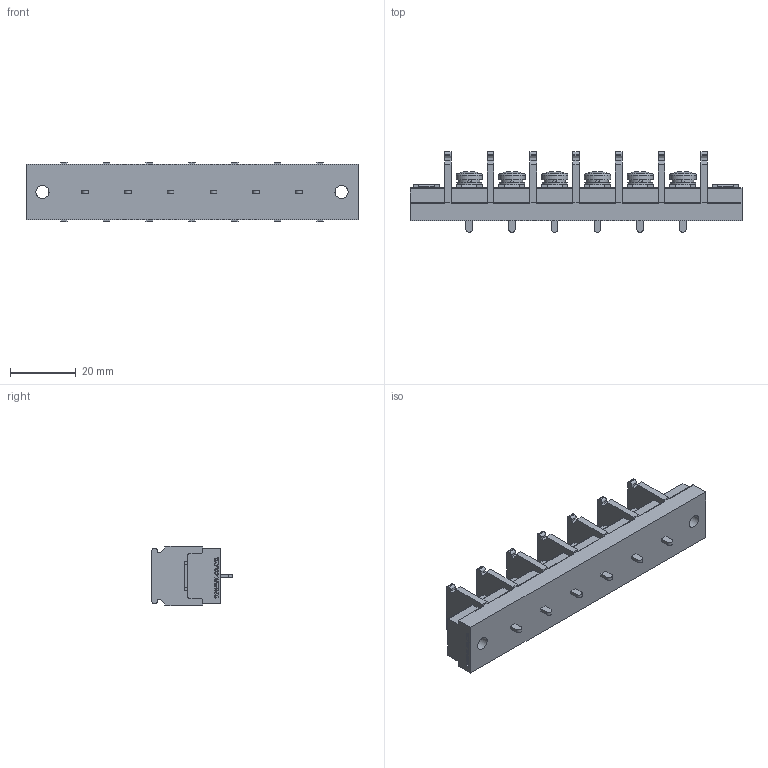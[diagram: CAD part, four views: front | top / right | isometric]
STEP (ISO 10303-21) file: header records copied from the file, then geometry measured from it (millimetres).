
FILE_DESCRIPTION(/* description */ ('Alibre Inc.'),/* implementation_level */ '2;1');
FILE_NAME(/* name */ 'export0',/* time_stamp */ '2016-08-02T19:24:10+09:00',/* author */ (''),/* organization */ (''),/* preprocessor_version */ 'ST-DEVELOPER v14',/* originating_system */ 'Alibre',/* authorisation */ '');
FILE_SCHEMA (('CONFIG_CONTROL_DESIGN'));
Length unit declared in the file: centimetre
Products named in the file (1): ID_1
Bounding box: 101 x 24.5 x 18 mm (x, y, z)
Volume: 19751.2 mm3; surface area: 10495.5 mm2
Topology: 1 solids, 39 shells, 1324 faces, 3488 edges, 2308 vertices
Faces by surface type: plane 958, bspline 208, cylinder 116, cone 30, sphere 6, torus 6
Full cylindrical faces by diameter (mm): 4 x10, 6.5 x6, 7.7 x6, 8 x6
Entity records: 39117 total; most frequent: CARTESIAN_POINT 8997, ORIENTED_EDGE 6864, DIRECTION 4536, EDGE_CURVE 3432, VECTOR 2522, LINE 2522, VERTEX_POINT 2286, EDGE_LOOP 1456
